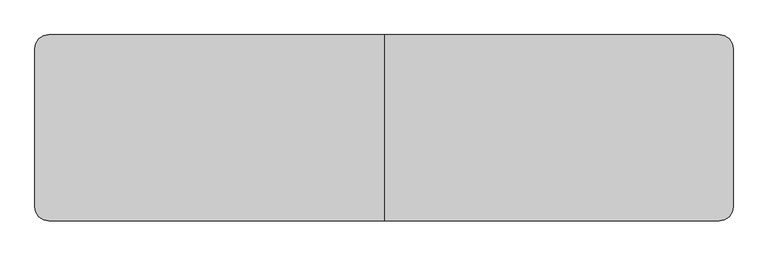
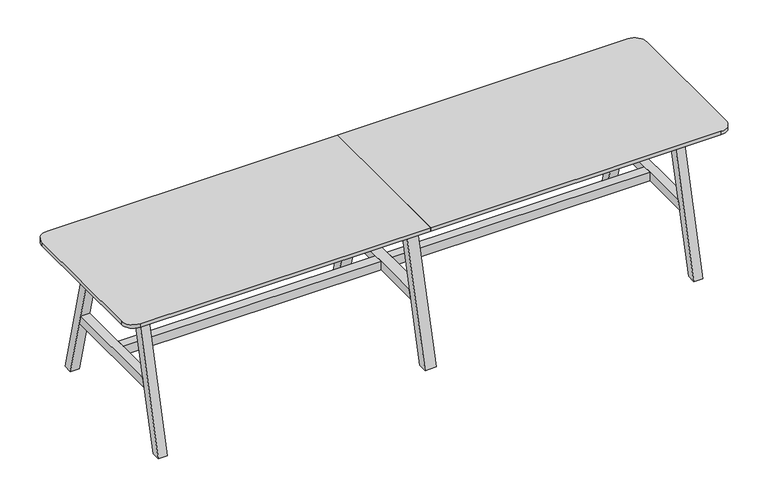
"""IFC4 building model written with IfcOpenShell, lengths in millimetres: furniture geometry, BDG_BossDesign_Tbls_AgentTables6Legs : AGE-DT-6L-3000-800-3D."""

from ifc_helpers import new_model, si_unit, point, frame, frame_2d, origin, place, context, project, spatial, polyline, circle_curve, trimmed, segment, composite_curve, outline, extrude, source, transform, mapped, element, save


def furniture_f723603e(model_context):
    return source(origin(), model_context, "Body", "SweptSolid", [
        extrude(outline(polyline([(400.0, 0.0), (354.9999949, 0.0), (185.5, 660.0), (230.5000051, 660.0), (400.0, 0.0)])), frame((-27.5, 0.0, 0.0), z_axis=(1.0, 0.0, 0.0), x_axis=(0.0, 1.0, 0.0)), (0.0, 0.0, 1.0), 55.0),
        extrude(outline(polyline([(-400.0, 0.0), (-230.5000051, 660.0), (-185.5, 660.0), (-354.9999949, 0.0), (-400.0, 0.0)])), frame((-27.5, 0.0, 0.0), z_axis=(1.0, 0.0, 0.0), x_axis=(0.0, 1.0, 0.0)), (0.0, 0.0, 1.0), 55.0),
        extrude(outline(polyline([(277.9545427, 300.0), (-277.9545427, 300.0), (-266.3977249, 345.0), (266.3977249, 345.0), (277.9545427, 300.0)])), frame((-27.5, 0.0, 0.0), z_axis=(1.0, 0.0, 0.0), x_axis=(0.0, 1.0, 0.0)), (0.0, 0.0, 1.0), 55.0),
        extrude(outline(composite_curve([segment(polyline([(0.0, 400.0), (0.0, -400.0), (-1440.0, -400.0)]), True, "CONTINUOUS"), segment(trimmed(circle_curve(frame_2d((-1440.0, -340.0)), 60.0), [point((-1440.0, -400.0))], [point((-1500.0, -340.0))], False, "CARTESIAN"), True, "CONTINUOUS"), segment(polyline([(-1500.0, -340.0), (-1500.0, 340.0)]), True, "CONTINUOUS"), segment(trimmed(circle_curve(frame_2d((-1440.0, 340.0)), 60.0), [point((-1500.0, 340.0))], [point((-1440.0, 400.0))], False, "CARTESIAN"), True, "CONTINUOUS"), segment(polyline([(-1440.0, 400.0), (0.0, 400.0)]), True, "CONTINUOUS")], self_intersect=False)), frame((0.0, 0.0, 722.0), z_axis=(0.0, 0.0, 1.0), x_axis=(1.0, 0.0, 0.0)), (0.0, 0.0, 1.0), 18.0),
        extrude(outline(polyline([(-266.3977249, 345.0), (266.3977249, 345.0), (277.9545427, 300.0), (-277.9545427, 300.0), (-266.3977249, 345.0)])), frame((1305.0, 0.0, 0.0), z_axis=(1.0, 0.0, 0.0), x_axis=(0.0, 1.0, 0.0)), (0.0, 0.0, 1.0), 45.0),
        extrude(outline(polyline([(400.0, 0.0), (354.9999949, 0.0), (185.5, 660.0), (230.5000051, 660.0), (400.0, 0.0)])), frame((-1350.0, 0.0, 0.0), z_axis=(1.0, 0.0, 0.0), x_axis=(0.0, 1.0, 0.0)), (0.0, 0.0, 1.0), 45.0),
        extrude(outline(polyline([(-400.0, 0.0), (-230.5000051, 660.0), (-185.5, 660.0), (-354.9999949, 0.0), (-400.0, 0.0)])), frame((-1350.0, 0.0, 0.0), z_axis=(1.0, 0.0, 0.0), x_axis=(0.0, 1.0, 0.0)), (0.0, 0.0, 1.0), 45.0),
        extrude(outline(polyline([(-266.3977249, 345.0), (266.3977249, 345.0), (277.9545427, 300.0), (-277.9545427, 300.0), (-266.3977249, 345.0)])), frame((-1350.0, 0.0, 0.0), z_axis=(1.0, 0.0, 0.0), x_axis=(0.0, 1.0, 0.0)), (0.0, 0.0, 1.0), 45.0),
        extrude(outline(polyline([(-226.6006165, 634.973938), (-204.2770691, 722.0), (-179.5, 722.0), (-201.8235474, 634.973938), (-226.6006165, 634.973938)])), frame((-1305.0, 0.0, 0.0), z_axis=(1.0, 0.0, 0.0), x_axis=(0.0, 1.0, 0.0)), (0.0, 0.0, 1.0), 2610.0),
        extrude(outline(polyline([(226.6006165, 634.973938), (201.8235474, 634.973938), (179.5, 722.0), (204.2770691, 722.0), (226.6006165, 634.973938)])), frame((-1305.0, 0.0, 0.0), z_axis=(1.0, 0.0, 0.0), x_axis=(0.0, 1.0, 0.0)), (0.0, 0.0, 1.0), 2610.0),
        extrude(outline(polyline([(399.7999878, 0.0), (354.7999827, 0.0), (185.5, 660.0), (230.5000051, 660.0), (399.7999878, 0.0)])), frame((1305.0, 0.0, 0.0), z_axis=(1.0, 0.0, 0.0), x_axis=(0.0, 1.0, 0.0)), (0.0, 0.0, 1.0), 45.0),
        extrude(outline(polyline([(-399.7999878, 0.0), (-230.5000051, 660.0), (-185.5, 660.0), (-354.7999827, 0.0), (-399.7999878, 0.0)])), frame((1305.0, 0.0, 0.0), z_axis=(1.0, 0.0, 0.0), x_axis=(0.0, 1.0, 0.0)), (0.0, 0.0, 1.0), 45.0),
        extrude(outline(polyline([(-27.5, 22.5000305), (-27.5, -22.5000305), (-1305.0, -22.5000305), (-1305.0, 22.5000305), (-27.5, 22.5000305)])), frame((0.0, 0.0, 300.0), z_axis=(0.0, 0.0, 1.0), x_axis=(1.0, 0.0, 0.0)), (0.0, 0.0, 1.0), 45.0),
        extrude(outline(polyline([(27.5, -22.5000305), (27.5, 22.5000305), (1305.0, 22.5000305), (1305.0, -22.5000305), (27.5, -22.5000305)])), frame((0.0, 0.0, 300.0), z_axis=(0.0, 0.0, 1.0), x_axis=(1.0, 0.0, 0.0)), (0.0, 0.0, 1.0), 45.0),
        extrude(outline(composite_curve([segment(trimmed(circle_curve(frame_2d((1440.0, 340.0)), 60.0), [point((1440.0, 400.0))], [point((1500.0, 340.0))], False, "CARTESIAN"), True, "CONTINUOUS"), segment(polyline([(1500.0, 340.0), (1500.0, -340.0)]), True, "CONTINUOUS"), segment(trimmed(circle_curve(frame_2d((1440.0, -340.0)), 60.0), [point((1500.0, -340.0))], [point((1440.0, -400.0))], False, "CARTESIAN"), True, "CONTINUOUS"), segment(polyline([(1440.0, -400.0), (0.0, -400.0), (0.0, 400.0), (1440.0, 400.0)]), True, "CONTINUOUS")], self_intersect=False)), frame((0.0, 0.0, 722.0), z_axis=(0.0, 0.0, 1.0), x_axis=(1.0, 0.0, 0.0)), (0.0, 0.0, 1.0), 18.0),
    ])


if __name__ == "__main__":
    model = new_model("IFC4")
    model_context = context("Model", 3, world=origin())
    ifc_project = project(units=[si_unit("LENGTHUNIT", "METRE", prefix="MILLI")], contexts=[model_context])
    site = spatial("IfcSite", under=ifc_project)
    building = spatial("IfcBuilding", under=site)
    placement = place(None, origin())
    furniture_shape = furniture_f723603e(model_context)
    element("IfcFurniture", 1, ObjectType="BDG_BossDesign_Tbls_AgentTables6Legs : AGE-DT-6L-3000-800-3D", at=placement, inside=building, context=model_context, shape_type="MappedRepresentation", body=[
        mapped(furniture_shape, transform((0.0, 0.0, 0.0), x_axis=(1.0, 0.0, 0.0), y_axis=(0.0, 1.0, 0.0), z_axis=(0.0, 0.0, 1.0))),
    ])
    save(model, "model.ifc")
